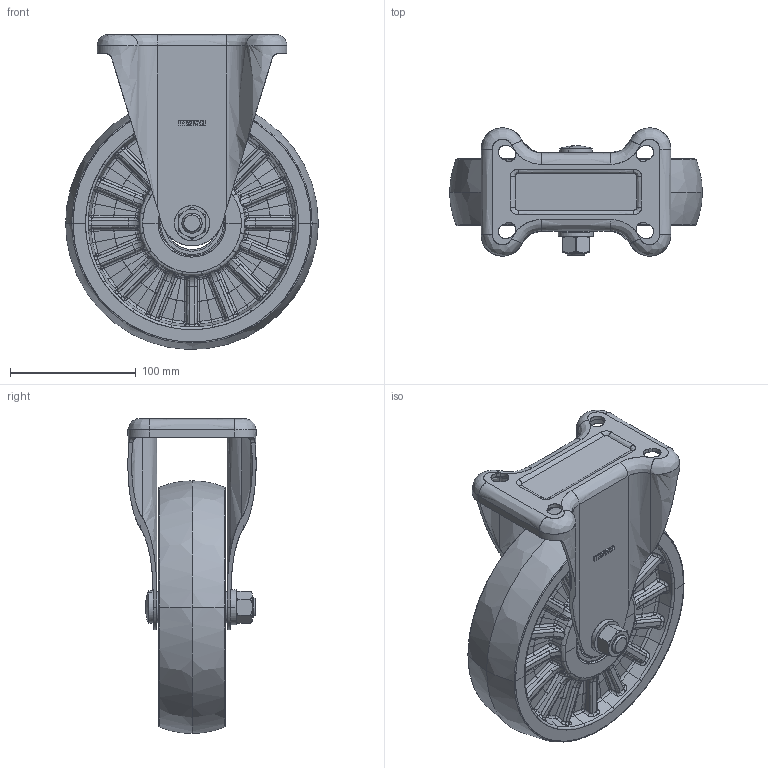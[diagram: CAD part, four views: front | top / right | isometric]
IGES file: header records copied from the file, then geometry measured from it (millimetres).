
Start section: JAMA-IS VERSION  1.0
Global section: file name: C:\CAM-TOOL data\ToolsFile\INOAC車輪\3月\ME200WK-ALL.igs; native system: CAM-TOOL; preprocessor: C3out Version 11.1.1.50212 (2015/02/12); author: NONE; organization: NONE; date: 230307.233520; units: millimetre
Bounding box: 201 x 102 x 250.46 mm (x, y, z)
Surface area: 238704.1 mm2 (no closed solid volume)
Topology: 0 solids, 0 shells, 1771 faces, 19214 edges, 19793 vertices
Faces by surface type: bspline 1771
